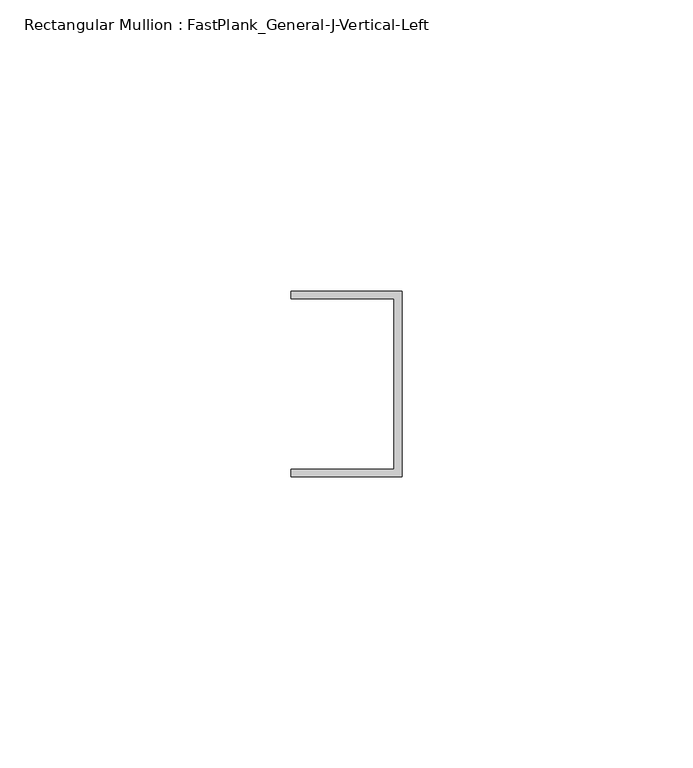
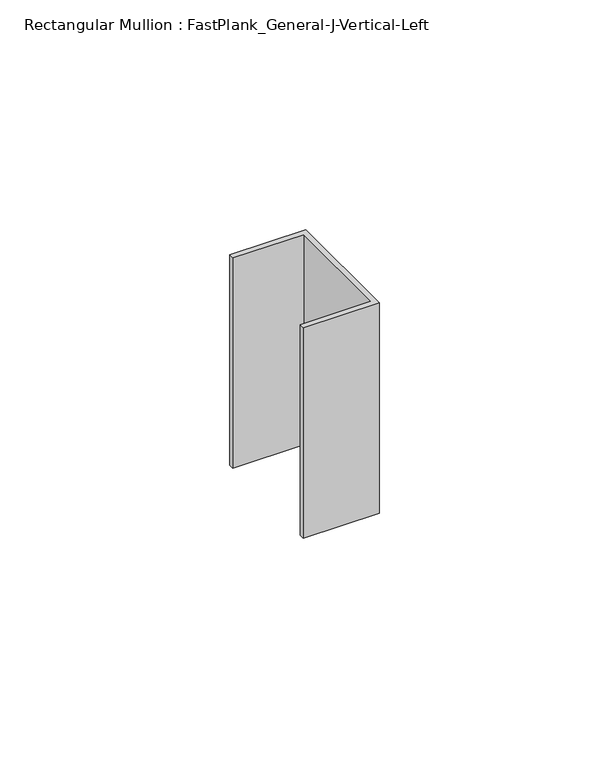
"""IFC4 building model written with IfcOpenShell, lengths in millimetres: member geometry, Rectangular Mullion : FastPlank_General-J-Vertical-Left."""

from ifc_helpers import new_model, si_unit, frame, origin, place, context, project, spatial, polyline, outline, extrude, source, transform, mapped, element, save


def rectangular_mullion_fastplank_general_j_vertical_left_273b95fd(model_context):
    return source(origin(), model_context, "Body", "SweptSolid", [
        extrude(outline(polyline([(0.0, -10.2620691), (-19.05, -10.2620691), (-19.05, -8.9620717), (-1.3000189, -8.9620717), (-1.3000189, 20.3412717), (-19.05, 20.3412717), (-19.05, 21.6412691), (0.0, 21.6412691), (0.0, -10.2620691)])), frame((0.0, 0.0, -55.8524796), z_axis=(0.0, 0.0, 1.0), x_axis=(1.0, 0.0, 0.0)), (0.0, 0.0, 1.0), 55.8524796),
    ])


if __name__ == "__main__":
    model = new_model("IFC4")
    model_context = context("Model", 3, world=origin())
    ifc_project = project(units=[si_unit("LENGTHUNIT", "METRE", prefix="MILLI")], contexts=[model_context])
    site = spatial("IfcSite", under=ifc_project)
    building = spatial("IfcBuilding", under=site)
    placement = place(None, origin())
    rectangular_mullion_fastplank_general_j_vertical_left_shape = rectangular_mullion_fastplank_general_j_vertical_left_273b95fd(model_context)
    element("IfcMember", 1, ObjectType="Rectangular Mullion : FastPlank_General-J-Vertical-Left", at=placement, inside=building, context=model_context, shape_type="MappedRepresentation", body=[
        mapped(rectangular_mullion_fastplank_general_j_vertical_left_shape, transform((0.0, 0.0, 0.0), x_axis=(1.0, 0.0, 0.0), y_axis=(0.0, 1.0, 0.0), z_axis=(0.0, 0.0, 1.0))),
    ])
    save(model, "model.ifc")
